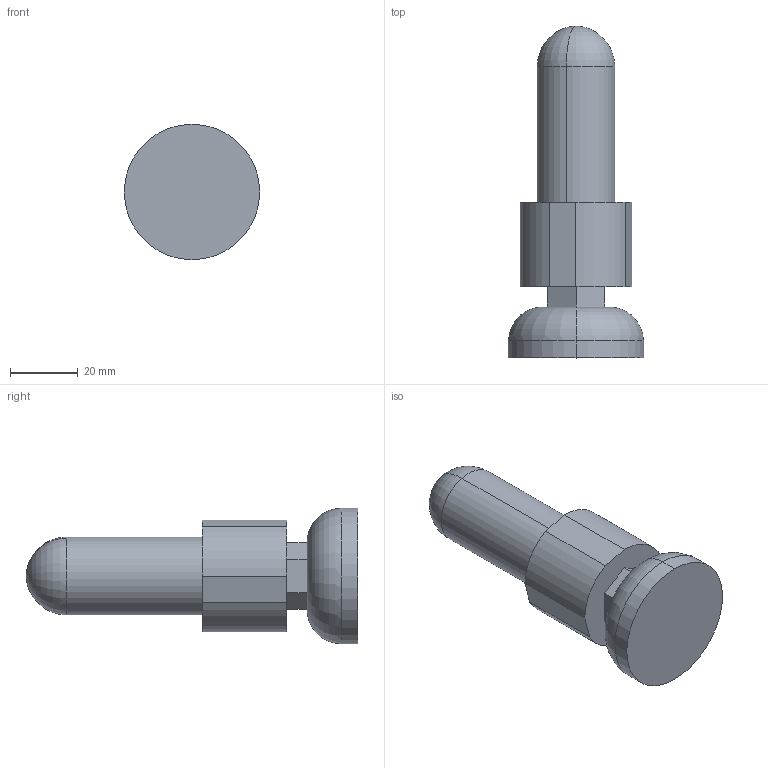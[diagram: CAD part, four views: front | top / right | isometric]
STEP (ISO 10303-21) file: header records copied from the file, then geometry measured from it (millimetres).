
FILE_DESCRIPTION (( 'STEP AP214' ), '1' );
FILE_NAME ('JB-427.step', '2024-02-15T05:12:02', ( 'catia' ), ( 'HP Inc.' ), 'SwSTEP 2.0', 'SolidWorks 2021', '' );
FILE_SCHEMA (( 'AUTOMOTIVE_DESIGN' ));
Length unit declared in the file: millimetre
Products named in the file (4): JB-417; JB-427_轡寶M10; JB-427
Assembly tree (3 placements, depth 2):
  JB-427
    JB-427
    JB-417
    JB-427_轡寶M10
Bounding box: 40 x 98 x 40 mm (x, y, z)
Volume: 54409.7 mm3; surface area: 19909.9 mm2
Topology: 3 solids, 3 shells, 40 faces, 90 edges, 56 vertices
Faces by surface type: plane 18, cylinder 16, torus 4, cone 2
Entity records: 1254 total; most frequent: DIRECTION 216, CARTESIAN_POINT 188, ORIENTED_EDGE 172, EDGE_CURVE 86, AXIS2_PLACEMENT_3D 84, VERTEX_POINT 56, VECTOR 48, LINE 48
